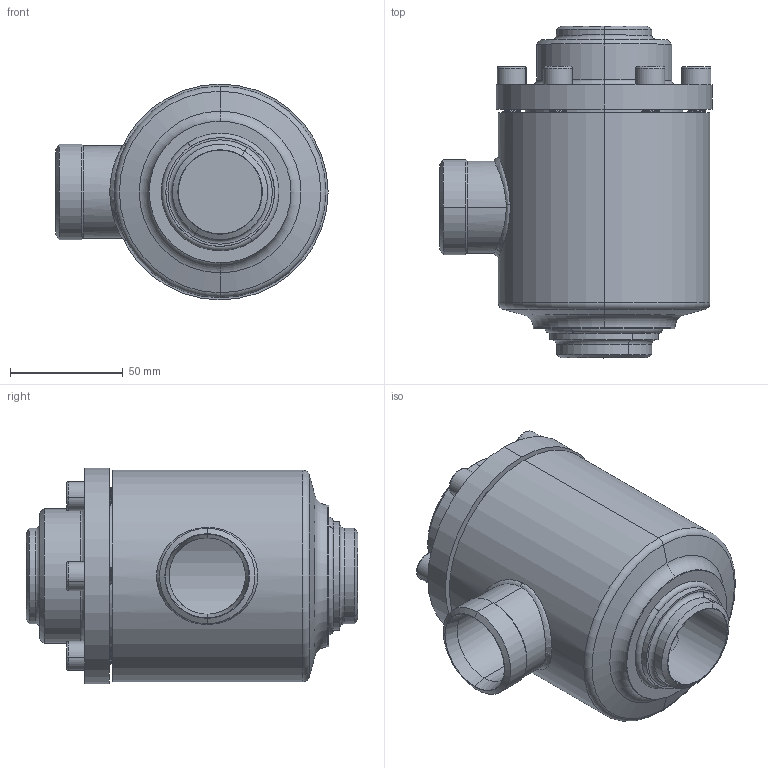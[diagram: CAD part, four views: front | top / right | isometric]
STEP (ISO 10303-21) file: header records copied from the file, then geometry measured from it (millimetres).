
FILE_DESCRIPTION (( 'STEP AP214' ), '1' );
FILE_NAME ('TR47000C13-DN32_R1_PS40.STEP', '2005-08-10T05:25:13', ( 'Herr Grams' ), ( 'AWP GmbH' ), 'SwSTEP 2.0', 'SolidWorks 2002296', '' );
FILE_SCHEMA (( 'AUTOMOTIVE_DESIGN' ));
Length unit declared in the file: millimetre
Products named in the file (10): TR47000C13-DN32_R1_PS40; Deckel47000E13_DN32_PS40_R1_Standard; Geh-kpl47000E13-DN32_PS40_R1_Standard; Stutzenteil47000E13_DN32_PS40_R1_Standard; Geh47000E14_DN32-40_PS40_R1_Standard; RohrstutzA47000E13-DN32_PS40_R1_Standard; bead13-3_Standard; Kehlnaht13-2_Standard; Führungsring47050-11-DN15-40_Standard; Zylinderschraube-DIN912-M 8x22_M 8x 22
Assembly tree (14 placements, depth 3):
  TR47000C13-DN32_R1_PS40
    Zylinderschraube-DIN912-M 8x22_M 8x 22  x6
    Führungsring47050-11-DN15-40_Standard
    Deckel47000E13_DN32_PS40_R1_Standard
    Geh-kpl47000E13-DN32_PS40_R1_Standard
      Geh47000E14_DN32-40_PS40_R1_Standard
      RohrstutzA47000E13-DN32_PS40_R1_Standard
      bead13-3_Standard
      Kehlnaht13-2_Standard
      Stutzenteil47000E13_DN32_PS40_R1_Standard
Bounding box: 121 x 147.5 x 96 mm (x, y, z)
Volume: 471963.2 mm3; surface area: 126821.5 mm2
Topology: 13 solids, 13 shells, 466 faces, 1198 edges, 778 vertices
Faces by surface type: cylinder 298, plane 90, cone 38, torus 26, bspline 14
Entity records: 22344 total; most frequent: CARTESIAN_POINT 16950, DIRECTION 946, ORIENTED_EDGE 936, EDGE_CURVE 468, AXIS2_PLACEMENT_3D 392, VERTEX_POINT 298, EDGE_LOOP 244, FACE_OUTER_BOUND 196
